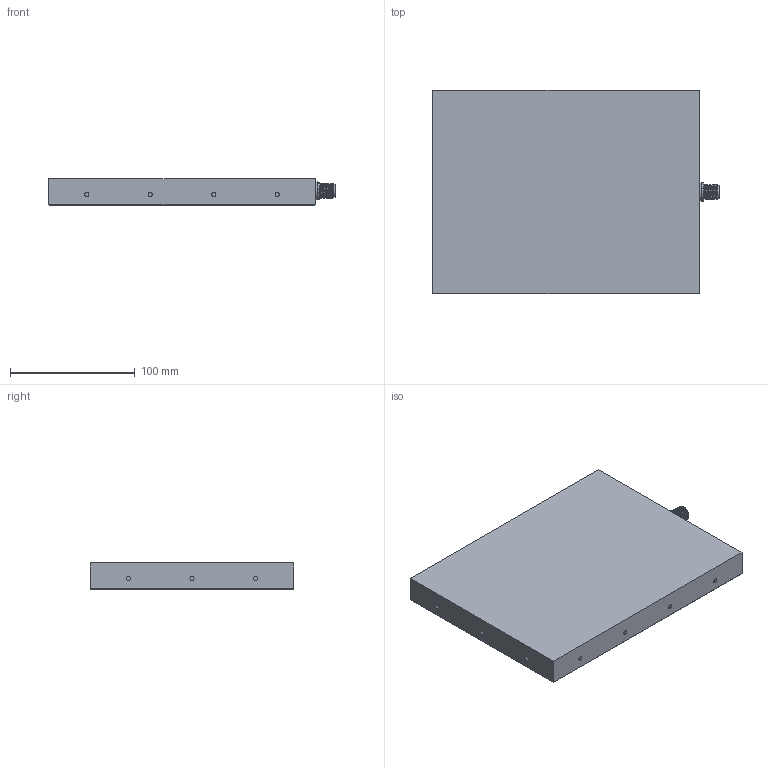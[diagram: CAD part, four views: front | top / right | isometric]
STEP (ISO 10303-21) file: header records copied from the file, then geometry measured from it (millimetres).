
FILE_DESCRIPTION (( 'STEP AP214' ), '1' );
FILE_NAME ('CSBACKII-xxxx-xxx_CLIENT2015.STEP', '2022-04-01T09:18:51', ( '' ), ( '' ), 'SwSTEP 2.0', 'SolidWorks 2020', '' );
FILE_SCHEMA (( 'AUTOMOTIVE_DESIGN' ));
Length unit declared in the file: millimetre
Products named in the file (1): CSBACKII-xxxx-xxx_CLIENT2015
Bounding box: 230 x 163 x 21.06 mm (x, y, z)
Volume: 735381.5 mm3; surface area: 87533 mm2
Topology: 1 solids, 2 shells, 334 faces, 831 edges, 546 vertices
Faces by surface type: plane 174, bspline 83, cylinder 69, torus 8
Entity records: 15474 total; most frequent: CARTESIAN_POINT 8041, ORIENTED_EDGE 1662, DIRECTION 1267, EDGE_CURVE 831, VERTEX_POINT 546, LINE 483, VECTOR 483, AXIS2_PLACEMENT_3D 392
